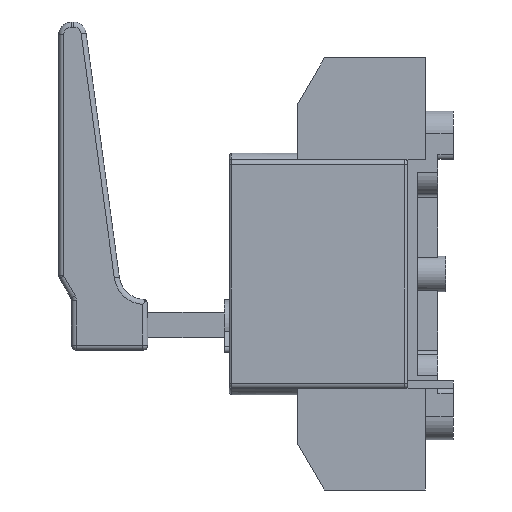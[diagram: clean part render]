
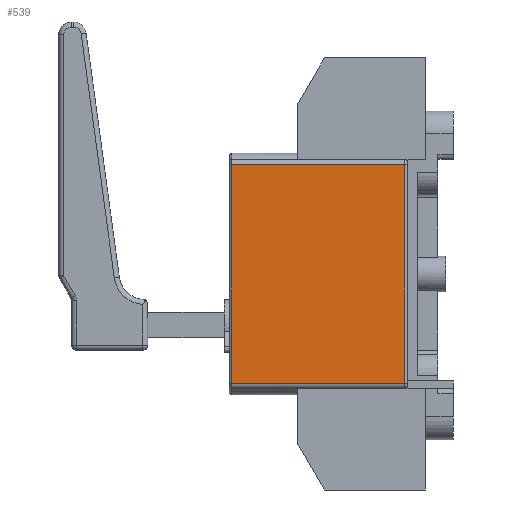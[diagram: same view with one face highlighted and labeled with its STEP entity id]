
A CAD part, left-side view. The second image highlights one B-rep face of the part: STEP entity #539.
In plain terms, the highlighted planar face has unit normal (-1, 0, 0).
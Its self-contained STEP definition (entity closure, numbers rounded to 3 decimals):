
#79=FACE_OUTER_BOUND('',#1604,.T.);
#539=ADVANCED_FACE('',(#79),#892,.F.);
#892=PLANE('',#6805);
#1604=EDGE_LOOP('',(#2261,#2262,#2263,#2264));
#2261=ORIENTED_EDGE('',*,*,#4757,.F.);
#2262=ORIENTED_EDGE('',*,*,#4758,.T.);
#2263=ORIENTED_EDGE('',*,*,#4754,.T.);
#2264=ORIENTED_EDGE('',*,*,#4759,.T.);
#4106=VERTEX_POINT('',#9932);
#4107=VERTEX_POINT('',#9933);
#4108=VERTEX_POINT('',#9938);
#4109=VERTEX_POINT('',#9939);
#4754=EDGE_CURVE('',#4106,#4107,#5634,.T.);
#4757=EDGE_CURVE('',#4108,#4109,#5635,.T.);
#4758=EDGE_CURVE('',#4108,#4106,#5636,.T.);
#4759=EDGE_CURVE('',#4107,#4109,#5637,.T.);
#5634=LINE('',#9931,#6229);
#5635=LINE('',#9937,#6230);
#5636=LINE('',#9940,#6231);
#5637=LINE('',#9941,#6232);
#6229=VECTOR('',#7721,1.);
#6230=VECTOR('',#7728,1.);
#6231=VECTOR('',#7729,1.);
#6232=VECTOR('',#7730,1.);
#6805=AXIS2_PLACEMENT_3D('',#9942,#7731,#7732);
#7721=DIRECTION('',(0.,-1.,0.));
#7728=DIRECTION('',(0.,-1.,0.));
#7729=DIRECTION('',(0.,0.,-1.));
#7730=DIRECTION('',(0.,0.,1.));
#7731=DIRECTION('',(1.,0.,0.));
#7732=DIRECTION('',(0.,0.,-1.));
#9931=CARTESIAN_POINT('',(-41.,35.,-43.));
#9932=CARTESIAN_POINT('',(-41.,69.,-43.));
#9933=CARTESIAN_POINT('',(-41.,1.,-43.));
#9937=CARTESIAN_POINT('',(-41.,35.,43.));
#9938=CARTESIAN_POINT('',(-41.,69.,43.));
#9939=CARTESIAN_POINT('',(-41.,1.,43.));
#9940=CARTESIAN_POINT('',(-41.,69.,-43.));
#9941=CARTESIAN_POINT('',(-41.,1.,-43.));
#9942=CARTESIAN_POINT('',(-41.,35.,-43.));
